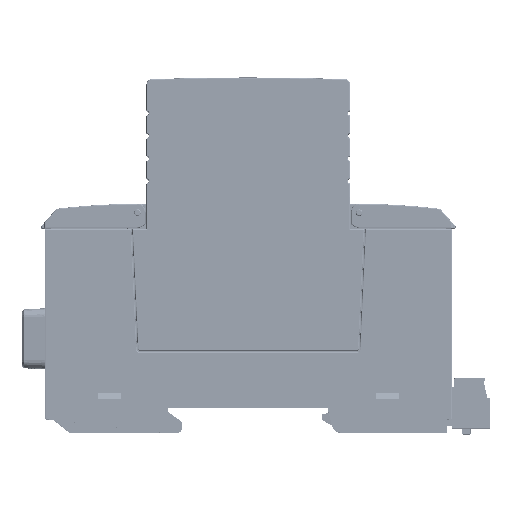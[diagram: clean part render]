
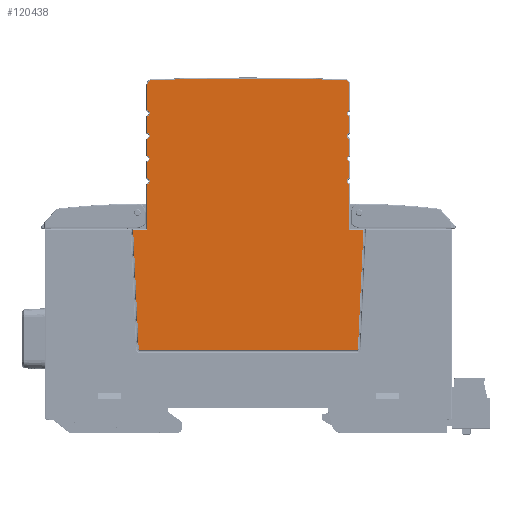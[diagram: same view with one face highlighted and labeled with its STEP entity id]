
A CAD part, top view. The second image highlights one B-rep face of the part: STEP entity #120438.
In plain terms, the highlighted planar face has unit normal (0, 0, 1) as drawn and (0, 0, -1) by its records, which use the part's own axes.
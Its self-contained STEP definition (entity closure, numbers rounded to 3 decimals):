
#5237=CIRCLE('',#134487,0.7);
#5255=CIRCLE('',#134513,599.8);
#5280=CIRCLE('',#134551,1.);
#5286=CIRCLE('',#134562,0.7);
#5297=CIRCLE('',#134582,0.7);
#5306=CIRCLE('',#134599,0.7);
#5349=CIRCLE('',#134714,0.3);
#5352=CIRCLE('',#134719,0.3);
#5389=CIRCLE('',#134871,0.7);
#5398=CIRCLE('',#134888,0.7);
#5409=CIRCLE('',#134908,0.7);
#5418=CIRCLE('',#134925,0.7);
#5428=CIRCLE('',#134942,1.);
#31968=ORIENTED_EDGE('',*,*,#53654,.T.);
#31969=ORIENTED_EDGE('',*,*,#53657,.F.);
#31970=ORIENTED_EDGE('',*,*,#53725,.F.);
#31971=ORIENTED_EDGE('',*,*,#53849,.F.);
#31972=ORIENTED_EDGE('',*,*,#53835,.F.);
#31973=ORIENTED_EDGE('',*,*,#53826,.F.);
#31974=ORIENTED_EDGE('',*,*,#53819,.F.);
#31975=ORIENTED_EDGE('',*,*,#53804,.F.);
#31976=ORIENTED_EDGE('',*,*,#53801,.F.);
#31977=ORIENTED_EDGE('',*,*,#53792,.F.);
#31978=ORIENTED_EDGE('',*,*,#53790,.F.);
#31979=ORIENTED_EDGE('',*,*,#53746,.F.);
#31980=ORIENTED_EDGE('',*,*,#54340,.F.);
#31981=ORIENTED_EDGE('',*,*,#54341,.F.);
#31982=ORIENTED_EDGE('',*,*,#54327,.F.);
#31983=ORIENTED_EDGE('',*,*,#54318,.F.);
#31984=ORIENTED_EDGE('',*,*,#54311,.F.);
#31985=ORIENTED_EDGE('',*,*,#54297,.F.);
#31986=ORIENTED_EDGE('',*,*,#54294,.F.);
#31987=ORIENTED_EDGE('',*,*,#54285,.F.);
#31988=ORIENTED_EDGE('',*,*,#54278,.F.);
#31989=ORIENTED_EDGE('',*,*,#53606,.F.);
#31990=ORIENTED_EDGE('',*,*,#53610,.T.);
#31991=ORIENTED_EDGE('',*,*,#53616,.T.);
#31992=ORIENTED_EDGE('',*,*,#54017,.T.);
#31993=ORIENTED_EDGE('',*,*,#54015,.T.);
#31994=ORIENTED_EDGE('',*,*,#54013,.T.);
#31995=ORIENTED_EDGE('',*,*,#54364,.T.);
#53606=EDGE_CURVE('',#67006,#67007,#80008,.T.);
#53610=EDGE_CURVE('',#67006,#67009,#80010,.T.);
#53616=EDGE_CURVE('',#67009,#67013,#80013,.T.);
#53654=EDGE_CURVE('',#67033,#67039,#80030,.T.);
#53657=EDGE_CURVE('',#67041,#67039,#80032,.T.);
#53725=EDGE_CURVE('',#67085,#67041,#5237,.T.);
#53746=EDGE_CURVE('',#67099,#67100,#5255,.T.);
#53790=EDGE_CURVE('',#67100,#67132,#5280,.T.);
#53792=EDGE_CURVE('',#67132,#67133,#80083,.T.);
#53801=EDGE_CURVE('',#67133,#67137,#5286,.T.);
#53804=EDGE_CURVE('',#67137,#67139,#80088,.T.);
#53819=EDGE_CURVE('',#67139,#67144,#5297,.T.);
#53826=EDGE_CURVE('',#67144,#67147,#80097,.T.);
#53835=EDGE_CURVE('',#67147,#67151,#5306,.T.);
#53849=EDGE_CURVE('',#67151,#67085,#80106,.T.);
#54013=EDGE_CURVE('',#67256,#67257,#5349,.T.);
#54015=EDGE_CURVE('',#67258,#67256,#80227,.T.);
#54017=EDGE_CURVE('',#67013,#67258,#5352,.T.);
#54278=EDGE_CURVE('',#67007,#67406,#5389,.T.);
#54285=EDGE_CURVE('',#67406,#67409,#80439,.T.);
#54294=EDGE_CURVE('',#67409,#67413,#5398,.T.);
#54297=EDGE_CURVE('',#67413,#67415,#80444,.T.);
#54311=EDGE_CURVE('',#67415,#67420,#5409,.T.);
#54318=EDGE_CURVE('',#67420,#67423,#80452,.T.);
#54327=EDGE_CURVE('',#67423,#67427,#5418,.T.);
#54340=EDGE_CURVE('',#67432,#67099,#5428,.T.);
#54341=EDGE_CURVE('',#67427,#67432,#80460,.T.);
#54364=EDGE_CURVE('',#67257,#67033,#80474,.T.);
#67006=VERTEX_POINT('',#216936);
#67007=VERTEX_POINT('',#216938);
#67009=VERTEX_POINT('',#216944);
#67013=VERTEX_POINT('',#216956);
#67033=VERTEX_POINT('',#217031);
#67039=VERTEX_POINT('',#217049);
#67041=VERTEX_POINT('',#217055);
#67085=VERTEX_POINT('',#217250);
#67099=VERTEX_POINT('',#217293);
#67100=VERTEX_POINT('',#217295);
#67132=VERTEX_POINT('',#217394);
#67133=VERTEX_POINT('',#217398);
#67137=VERTEX_POINT('',#217415);
#67139=VERTEX_POINT('',#217421);
#67144=VERTEX_POINT('',#217449);
#67147=VERTEX_POINT('',#217463);
#67151=VERTEX_POINT('',#217480);
#67256=VERTEX_POINT('',#217918);
#67257=VERTEX_POINT('',#217920);
#67258=VERTEX_POINT('',#217924);
#67406=VERTEX_POINT('',#218507);
#67409=VERTEX_POINT('',#218521);
#67413=VERTEX_POINT('',#218538);
#67415=VERTEX_POINT('',#218544);
#67420=VERTEX_POINT('',#218571);
#67423=VERTEX_POINT('',#218585);
#67427=VERTEX_POINT('',#218602);
#67432=VERTEX_POINT('',#218626);
#80008=LINE('',#216937,#93337);
#80010=LINE('',#216946,#93339);
#80013=LINE('',#216957,#93342);
#80030=LINE('',#217050,#93359);
#80032=LINE('',#217056,#93361);
#80083=LINE('',#217397,#93412);
#80088=LINE('',#217420,#93417);
#80097=LINE('',#217462,#93426);
#80106=LINE('',#217506,#93435);
#80227=LINE('',#217925,#93556);
#80439=LINE('',#218520,#93768);
#80444=LINE('',#218543,#93773);
#80452=LINE('',#218584,#93781);
#80460=LINE('',#218629,#93789);
#80474=LINE('',#218692,#93803);
#93337=VECTOR('',#159305,1000.);
#93339=VECTOR('',#159313,1000.);
#93342=VECTOR('',#159326,1000.);
#93359=VECTOR('',#159411,1000.);
#93361=VECTOR('',#159417,1000.);
#93412=VECTOR('',#159708,1000.);
#93417=VECTOR('',#159737,1000.);
#93426=VECTOR('',#159796,1000.);
#93435=VECTOR('',#159857,1000.);
#93556=VECTOR('',#160178,1000.);
#93768=VECTOR('',#160716,1000.);
#93773=VECTOR('',#160745,1000.);
#93781=VECTOR('',#160803,1000.);
#93789=VECTOR('',#160865,1000.);
#93803=VECTOR('',#160937,1000.);
#102240=EDGE_LOOP('',(#31968,#31969,#31970,#31971,#31972,#31973,#31974,
#31975,#31976,#31977,#31978,#31979,#31980,#31981,#31982,#31983,#31984,#31985,
#31986,#31987,#31988,#31989,#31990,#31991,#31992,#31993,#31994,#31995));
#109256=FACE_BOUND('',#102240,.T.);
#114650=PLANE('',#134973);
#120438=ADVANCED_FACE('',(#109256),#114650,.F.);
#134487=AXIS2_PLACEMENT_3D('',#217251,#159555,#159556);
#134513=AXIS2_PLACEMENT_3D('',#217294,#159610,#159611);
#134551=AXIS2_PLACEMENT_3D('',#217393,#159702,#159703);
#134562=AXIS2_PLACEMENT_3D('',#217414,#159729,#159730);
#134582=AXIS2_PLACEMENT_3D('',#217448,#159776,#159777);
#134599=AXIS2_PLACEMENT_3D('',#217479,#159817,#159818);
#134714=AXIS2_PLACEMENT_3D('',#217921,#160172,#160173);
#134719=AXIS2_PLACEMENT_3D('',#217928,#160183,#160184);
#134871=AXIS2_PLACEMENT_3D('',#218506,#160696,#160697);
#134888=AXIS2_PLACEMENT_3D('',#218537,#160737,#160738);
#134908=AXIS2_PLACEMENT_3D('',#218570,#160783,#160784);
#134925=AXIS2_PLACEMENT_3D('',#218601,#160824,#160825);
#134942=AXIS2_PLACEMENT_3D('',#218627,#160861,#160862);
#134973=AXIS2_PLACEMENT_3D('',#218693,#160938,#160939);
#159305=DIRECTION('',(0.,1.,0.));
#159313=DIRECTION('',(1.,0.,0.));
#159326=DIRECTION('',(-0.046,-0.999,0.));
#159411=DIRECTION('',(1.,0.,0.));
#159417=DIRECTION('',(0.,-1.,0.));
#159555=DIRECTION('',(0.,0.,-1.));
#159556=DIRECTION('',(0.286,0.958,0.));
#159610=DIRECTION('',(0.,0.,1.));
#159611=DIRECTION('',(0.036,0.999,0.));
#159702=DIRECTION('',(0.,0.,1.));
#159703=DIRECTION('',(-0.036,0.999,0.));
#159708=DIRECTION('',(0.,-1.,0.));
#159729=DIRECTION('',(0.,0.,-1.));
#159730=DIRECTION('',(0.286,0.958,0.));
#159737=DIRECTION('',(0.,-1.,0.));
#159776=DIRECTION('',(0.,0.,-1.));
#159777=DIRECTION('',(0.286,0.958,0.));
#159796=DIRECTION('',(0.,-1.,0.));
#159817=DIRECTION('',(0.,0.,-1.));
#159818=DIRECTION('',(0.286,0.958,0.));
#159857=DIRECTION('',(0.,-1.,0.));
#160172=DIRECTION('',(0.,0.,-1.));
#160173=DIRECTION('',(0.,-1.,0.));
#160178=DIRECTION('',(-1.,0.,0.));
#160183=DIRECTION('',(0.,0.,-1.));
#160184=DIRECTION('',(0.999,-0.046,0.));
#160696=DIRECTION('',(0.,0.,-1.));
#160697=DIRECTION('',(-0.286,-0.958,0.));
#160716=DIRECTION('',(0.,1.,0.));
#160737=DIRECTION('',(0.,0.,-1.));
#160738=DIRECTION('',(-0.286,-0.958,0.));
#160745=DIRECTION('',(0.,1.,0.));
#160783=DIRECTION('',(0.,0.,-1.));
#160784=DIRECTION('',(-0.286,-0.958,0.));
#160803=DIRECTION('',(0.,1.,0.));
#160824=DIRECTION('',(0.,0.,-1.));
#160825=DIRECTION('',(-0.286,-0.958,0.));
#160861=DIRECTION('',(0.,0.,1.));
#160862=DIRECTION('',(1.,0.,0.));
#160865=DIRECTION('',(0.,1.,0.));
#160937=DIRECTION('',(-0.046,0.999,0.));
#160938=DIRECTION('',(0.,0.,1.));
#160939=DIRECTION('',(1.,0.,0.));
#216936=CARTESIAN_POINT('',(22.3,25.72,-8.9));
#216937=CARTESIAN_POINT('',(22.3,25.72,-8.9));
#216938=CARTESIAN_POINT('',(22.3,35.829,-8.9));
#216944=CARTESIAN_POINT('',(25.433,25.72,-8.9));
#216946=CARTESIAN_POINT('',(22.3,25.72,-8.9));
#216956=CARTESIAN_POINT('',(24.222,-0.514,-8.9));
#216957=CARTESIAN_POINT('',(25.433,25.72,-8.9));
#217031=CARTESIAN_POINT('',(-25.433,25.72,-8.9));
#217049=CARTESIAN_POINT('',(-22.3,25.72,-8.9));
#217050=CARTESIAN_POINT('',(-25.433,25.72,-8.9));
#217055=CARTESIAN_POINT('',(-22.3,35.829,-8.9));
#217056=CARTESIAN_POINT('',(-22.3,35.829,-8.9));
#217250=CARTESIAN_POINT('',(-22.3,37.171,-8.9));
#217251=CARTESIAN_POINT('',(-22.5,36.5,-8.9));
#217293=CARTESIAN_POINT('',(21.336,58.842,-8.9));
#217294=CARTESIAN_POINT('',(0.,-540.578,-8.9));
#217295=CARTESIAN_POINT('',(-21.336,58.842,-8.9));
#217393=CARTESIAN_POINT('',(-21.3,57.843,-8.9));
#217394=CARTESIAN_POINT('',(-22.3,57.843,-8.9));
#217397=CARTESIAN_POINT('',(-22.3,57.843,-8.9));
#217398=CARTESIAN_POINT('',(-22.3,52.171,-8.9));
#217414=CARTESIAN_POINT('',(-22.5,51.5,-8.9));
#217415=CARTESIAN_POINT('',(-22.3,50.829,-8.9));
#217420=CARTESIAN_POINT('',(-22.3,50.829,-8.9));
#217421=CARTESIAN_POINT('',(-22.3,47.171,-8.9));
#217448=CARTESIAN_POINT('',(-22.5,46.5,-8.9));
#217449=CARTESIAN_POINT('',(-22.3,45.829,-8.9));
#217462=CARTESIAN_POINT('',(-22.3,45.829,-8.9));
#217463=CARTESIAN_POINT('',(-22.3,42.171,-8.9));
#217479=CARTESIAN_POINT('',(-22.5,41.5,-8.9));
#217480=CARTESIAN_POINT('',(-22.3,40.829,-8.9));
#217506=CARTESIAN_POINT('',(-22.3,40.829,-8.9));
#217918=CARTESIAN_POINT('',(-23.923,-0.8,-8.9));
#217920=CARTESIAN_POINT('',(-24.222,-0.514,-8.9));
#217921=CARTESIAN_POINT('',(-23.923,-0.5,-8.9));
#217924=CARTESIAN_POINT('',(23.923,-0.8,-8.9));
#217925=CARTESIAN_POINT('',(23.923,-0.8,-8.9));
#217928=CARTESIAN_POINT('',(23.923,-0.5,-8.9));
#218506=CARTESIAN_POINT('',(22.5,36.5,-8.9));
#218507=CARTESIAN_POINT('',(22.3,37.171,-8.9));
#218520=CARTESIAN_POINT('',(22.3,37.171,-8.9));
#218521=CARTESIAN_POINT('',(22.3,40.829,-8.9));
#218537=CARTESIAN_POINT('',(22.5,41.5,-8.9));
#218538=CARTESIAN_POINT('',(22.3,42.171,-8.9));
#218543=CARTESIAN_POINT('',(22.3,42.171,-8.9));
#218544=CARTESIAN_POINT('',(22.3,45.829,-8.9));
#218570=CARTESIAN_POINT('',(22.5,46.5,-8.9));
#218571=CARTESIAN_POINT('',(22.3,47.171,-8.9));
#218584=CARTESIAN_POINT('',(22.3,47.171,-8.9));
#218585=CARTESIAN_POINT('',(22.3,50.829,-8.9));
#218601=CARTESIAN_POINT('',(22.5,51.5,-8.9));
#218602=CARTESIAN_POINT('',(22.3,52.171,-8.9));
#218626=CARTESIAN_POINT('',(22.3,57.843,-8.9));
#218627=CARTESIAN_POINT('',(21.3,57.843,-8.9));
#218629=CARTESIAN_POINT('',(22.3,52.171,-8.9));
#218692=CARTESIAN_POINT('',(-24.222,-0.514,-8.9));
#218693=CARTESIAN_POINT('',(0.,0.,-8.9));
